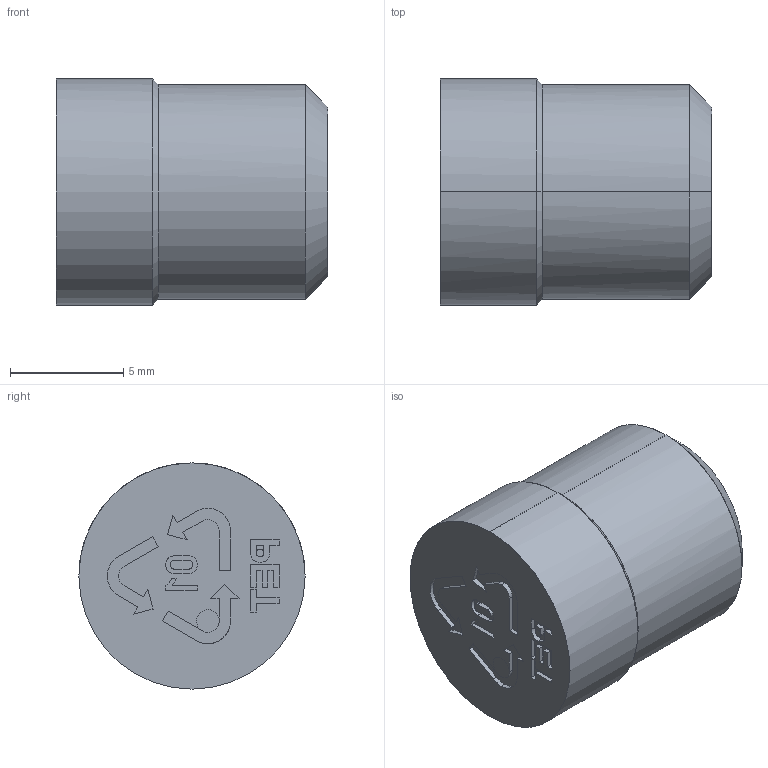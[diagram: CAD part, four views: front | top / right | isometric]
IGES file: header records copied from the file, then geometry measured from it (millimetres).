
Start section: START RECORD GO HERE.
Global section: file name: MSO110.igs; native system: DASSAULT SYSTEMES CATIA V5 R20 - www.3ds.com; preprocessor: CATIA Version 5 Release 20 ; author: Utente; organization: NB04-ASUS; date: 20210326.144232; units: millimetre
Bounding box: 12 x 10 x 10 mm (x, y, z)
Surface area: 577.6 mm2 (no closed solid volume)
Topology: 0 solids, 0 shells, 110 faces, 602 edges, 596 vertices
Faces by surface type: plane 76, revolution 34
